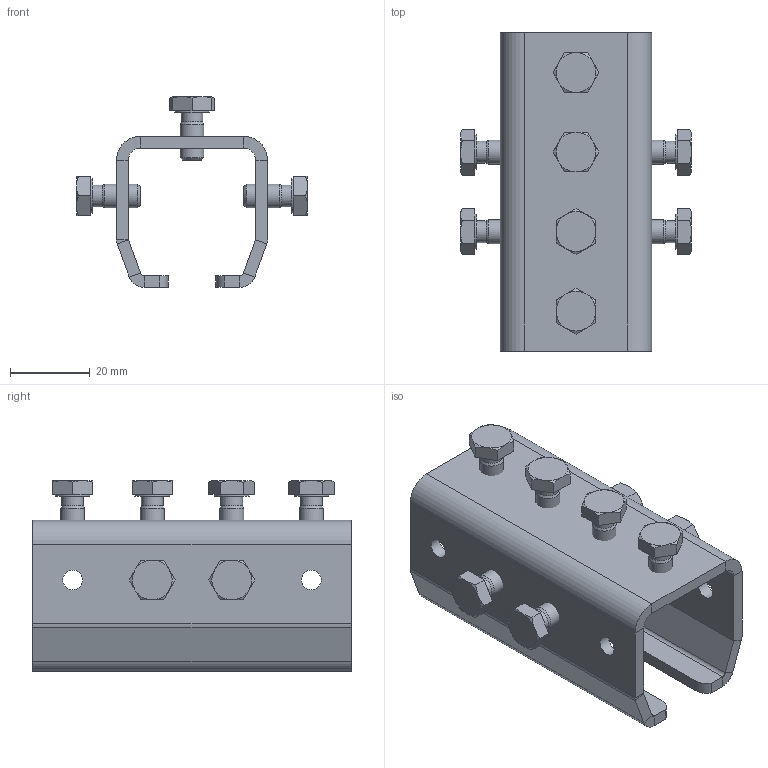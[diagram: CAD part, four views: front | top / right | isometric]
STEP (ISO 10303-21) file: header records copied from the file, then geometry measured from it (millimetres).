
FILE_DESCRIPTION(/* description */ ('Muffe Nr.0_lang'),/* implementation_level */ '2;1');
FILE_NAME(/* name */ 'Q:\sge-ma\Produktmanagement-STB\STB\Workspace\stp\010330467.stp',/* time_stamp */ '2016-07-13T12:54:14+02:00',/* author */ ('avschreier'),/* organization */ (''),/* preprocessor_version */ 'ST-DEVELOPER v16.1',/* originating_system */ 'Autodesk Inventor 2016',/* authorisation */ '');
FILE_SCHEMA (('AUTOMOTIVE_DESIGN { 1 0 10303 214 3 1 1 }'));
Length unit declared in the file: millimetre
Products named in the file (3): 337000115; DIN_EN_ISO_4017-M6x12_en; 010330467
Assembly tree (9 placements, depth 2):
  010330467
    337000115
    DIN_EN_ISO_4017-M6x12_en  x8
Bounding box: 58 x 80 x 48 mm (x, y, z)
Volume: 32623.4 mm3; surface area: 24178.4 mm2
Topology: 9 solids, 9 shells, 238 faces, 500 edges, 296 vertices
Faces by surface type: plane 122, cone 64, cylinder 52
Full cylindrical faces by diameter (mm): 4.917 x8, 5 x4, 5.459 x8, 6 x8, 8.7 x8
Entity records: 2504 total; most frequent: DIRECTION 444, CARTESIAN_POINT 421, ORIENTED_EDGE 362, EDGE_CURVE 181, AXIS2_PLACEMENT_3D 172, EDGE_LOOP 134, VERTEX_POINT 113, LINE 100
